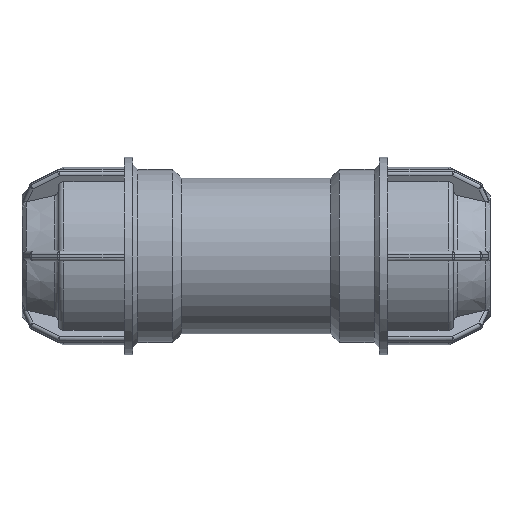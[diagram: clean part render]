
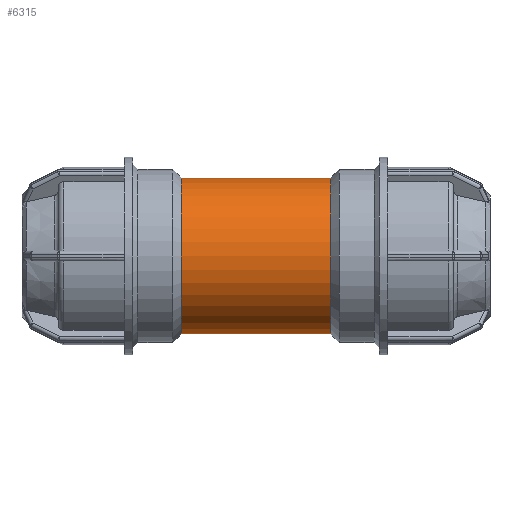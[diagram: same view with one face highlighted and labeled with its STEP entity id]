
A CAD part, front view. The second image highlights one B-rep face of the part: STEP entity #6315.
In plain terms, the highlighted cylindrical face has radius 28.8 mm (diameter 57.6 mm), a full revolution.
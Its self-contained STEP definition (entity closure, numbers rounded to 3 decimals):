
#1037=CIRCLE('',#6337,28.8);
#1204=CIRCLE('',#6703,28.8);
#1428=FACE_BOUND('',#2466,.T.);
#1429=FACE_BOUND('',#2467,.T.);
#1441=B_SPLINE_CURVE_WITH_KNOTS('',3,(#8986,#8987,#8988,#8989,#8990,#8991,
#8992,#8993,#8994,#8995,#8996,#8997,#8998,#8999,#9000,#9001,#9002,#9003,
#9004,#9005,#9006,#9007,#9008,#9009,#9010,#9011,#9012,#9013,#9014,#9015,
#9016,#9017,#9018,#9019,#9020,#9021,#9022,#9023,#9024,#9025,#9026,#9027,
#9028,#9029,#9030,#9031,#9032,#9033,#9034,#9035,#9036,#9037,#9038,#9039,
#9040,#9041,#9042,#9043),.UNSPECIFIED.,.T.,.F.,(4,2,2,2,2,2,2,2,2,2,2,2,
2,2,2,2,2,2,2,2,2,2,2,2,2,2,2,2,4),(0.,0.352,0.705,
1.409,1.759,2.108,2.458,2.807,
3.157,3.506,3.856,4.205,4.91,
5.262,5.615,5.967,6.319,7.024,
7.373,7.723,8.073,8.422,8.772,
9.121,9.471,9.82,10.525,10.877,
11.229),.UNSPECIFIED.);
#2024=FACE_OUTER_BOUND('',#2465,.T.);
#2465=EDGE_LOOP('',(#5757));
#2466=EDGE_LOOP('',(#5758));
#2467=EDGE_LOOP('',(#5759));
#2496=VERTEX_POINT('',#8985);
#2498=VERTEX_POINT('',#9047);
#2761=VERTEX_POINT('',#10524);
#3040=EDGE_CURVE('',#2496,#2496,#1441,.T.);
#3042=EDGE_CURVE('',#2498,#2498,#1037,.T.);
#3491=EDGE_CURVE('',#2761,#2761,#1204,.T.);
#5757=ORIENTED_EDGE('',*,*,#3042,.T.);
#5758=ORIENTED_EDGE('',*,*,#3040,.T.);
#5759=ORIENTED_EDGE('',*,*,#3491,.F.);
#5910=CYLINDRICAL_SURFACE('',#7069,28.8);
#6315=ADVANCED_FACE('',(#2024,#1428,#1429),#5910,.T.);
#6337=AXIS2_PLACEMENT_3D('',#9048,#7105,#7106);
#6703=AXIS2_PLACEMENT_3D('',#10525,#8017,#8018);
#7069=AXIS2_PLACEMENT_3D('',#12012,#8929,#8930);
#7105=DIRECTION('center_axis',(1.,0.,0.));
#7106=DIRECTION('ref_axis',(0.,0.,-1.));
#8017=DIRECTION('center_axis',(1.,0.,0.));
#8018=DIRECTION('ref_axis',(0.,0.,-1.));
#8929=DIRECTION('center_axis',(1.,0.,0.));
#8930=DIRECTION('ref_axis',(0.,1.,0.));
#8985=CARTESIAN_POINT('',(0.,22.482,-18.));
#8986=CARTESIAN_POINT('Ctrl Pts',(0.,22.482,
-18.));
#8987=CARTESIAN_POINT('Ctrl Pts',(1.174,22.482,-18.));
#8988=CARTESIAN_POINT('Ctrl Pts',(2.372,22.577,-17.883));
#8989=CARTESIAN_POINT('Ctrl Pts',(4.725,22.944,-17.41));
#8990=CARTESIAN_POINT('Ctrl Pts',(5.881,23.215,-17.054));
#8991=CARTESIAN_POINT('Ctrl Pts',(9.182,24.194,-15.665));
#8992=CARTESIAN_POINT('Ctrl Pts',(11.16,25.062,-14.296));
#8993=CARTESIAN_POINT('Ctrl Pts',(13.506,26.218,-11.95));
#8994=CARTESIAN_POINT('Ctrl Pts',(14.242,26.608,-11.069));
#8995=CARTESIAN_POINT('Ctrl Pts',(15.552,27.332,-9.137));
#8996=CARTESIAN_POINT('Ctrl Pts',(16.126,27.665,-8.087));
#8997=CARTESIAN_POINT('Ctrl Pts',(17.056,28.217,-5.877));
#8998=CARTESIAN_POINT('Ctrl Pts',(17.413,28.436,-4.716));
#8999=CARTESIAN_POINT('Ctrl Pts',(17.885,28.728,-2.36));
#9000=CARTESIAN_POINT('Ctrl Pts',(18.,28.8,-1.165));
#9001=CARTESIAN_POINT('Ctrl Pts',(18.,28.8,1.165));
#9002=CARTESIAN_POINT('Ctrl Pts',(17.885,28.728,2.36));
#9003=CARTESIAN_POINT('Ctrl Pts',(17.413,28.436,4.716));
#9004=CARTESIAN_POINT('Ctrl Pts',(17.056,28.217,5.877));
#9005=CARTESIAN_POINT('Ctrl Pts',(16.126,27.665,8.087));
#9006=CARTESIAN_POINT('Ctrl Pts',(15.552,27.332,9.137));
#9007=CARTESIAN_POINT('Ctrl Pts',(14.242,26.608,11.069));
#9008=CARTESIAN_POINT('Ctrl Pts',(13.506,26.218,11.95));
#9009=CARTESIAN_POINT('Ctrl Pts',(11.16,25.062,14.296));
#9010=CARTESIAN_POINT('Ctrl Pts',(9.182,24.194,15.665));
#9011=CARTESIAN_POINT('Ctrl Pts',(5.881,23.215,17.054));
#9012=CARTESIAN_POINT('Ctrl Pts',(4.725,22.944,17.41));
#9013=CARTESIAN_POINT('Ctrl Pts',(2.372,22.577,17.883));
#9014=CARTESIAN_POINT('Ctrl Pts',(1.174,22.482,18.));
#9015=CARTESIAN_POINT('Ctrl Pts',(-1.174,22.482,18.));
#9016=CARTESIAN_POINT('Ctrl Pts',(-2.372,22.577,17.883));
#9017=CARTESIAN_POINT('Ctrl Pts',(-4.725,22.944,17.41));
#9018=CARTESIAN_POINT('Ctrl Pts',(-5.881,23.215,17.054));
#9019=CARTESIAN_POINT('Ctrl Pts',(-9.182,24.194,15.665));
#9020=CARTESIAN_POINT('Ctrl Pts',(-11.16,25.062,14.296));
#9021=CARTESIAN_POINT('Ctrl Pts',(-13.506,26.218,11.95));
#9022=CARTESIAN_POINT('Ctrl Pts',(-14.242,26.608,11.069));
#9023=CARTESIAN_POINT('Ctrl Pts',(-15.552,27.332,9.137));
#9024=CARTESIAN_POINT('Ctrl Pts',(-16.126,27.665,8.087));
#9025=CARTESIAN_POINT('Ctrl Pts',(-17.056,28.217,5.877));
#9026=CARTESIAN_POINT('Ctrl Pts',(-17.413,28.436,4.716));
#9027=CARTESIAN_POINT('Ctrl Pts',(-17.885,28.728,2.36));
#9028=CARTESIAN_POINT('Ctrl Pts',(-18.,28.8,1.165));
#9029=CARTESIAN_POINT('Ctrl Pts',(-18.,28.8,-1.165));
#9030=CARTESIAN_POINT('Ctrl Pts',(-17.885,28.728,-2.36));
#9031=CARTESIAN_POINT('Ctrl Pts',(-17.413,28.436,-4.716));
#9032=CARTESIAN_POINT('Ctrl Pts',(-17.056,28.217,-5.877));
#9033=CARTESIAN_POINT('Ctrl Pts',(-16.126,27.665,-8.087));
#9034=CARTESIAN_POINT('Ctrl Pts',(-15.552,27.332,-9.137));
#9035=CARTESIAN_POINT('Ctrl Pts',(-14.242,26.608,-11.069));
#9036=CARTESIAN_POINT('Ctrl Pts',(-13.506,26.218,-11.95));
#9037=CARTESIAN_POINT('Ctrl Pts',(-11.16,25.062,-14.296));
#9038=CARTESIAN_POINT('Ctrl Pts',(-9.182,24.194,-15.665));
#9039=CARTESIAN_POINT('Ctrl Pts',(-5.881,23.215,-17.054));
#9040=CARTESIAN_POINT('Ctrl Pts',(-4.725,22.944,-17.41));
#9041=CARTESIAN_POINT('Ctrl Pts',(-2.372,22.577,-17.883));
#9042=CARTESIAN_POINT('Ctrl Pts',(-1.174,22.482,-18.));
#9043=CARTESIAN_POINT('Ctrl Pts',(0.,22.482,
-18.));
#9047=CARTESIAN_POINT('',(-27.6,28.8,0.));
#9048=CARTESIAN_POINT('Origin',(-27.6,0.,0.));
#10524=CARTESIAN_POINT('',(27.6,28.8,0.));
#10525=CARTESIAN_POINT('Origin',(27.6,0.,0.));
#12012=CARTESIAN_POINT('Origin',(13.8,0.,0.));
